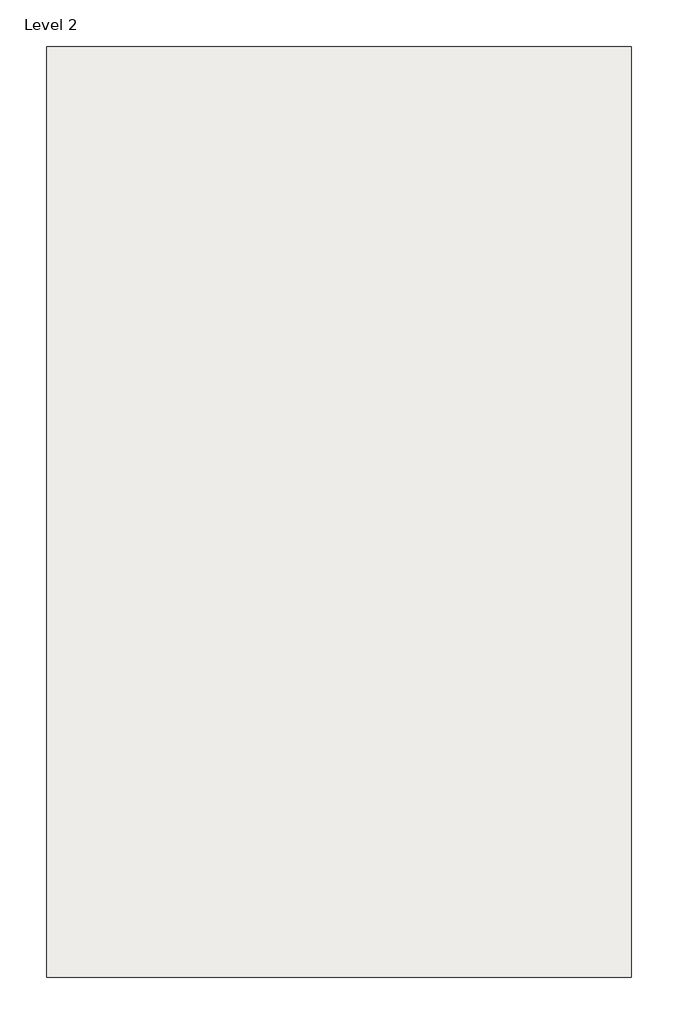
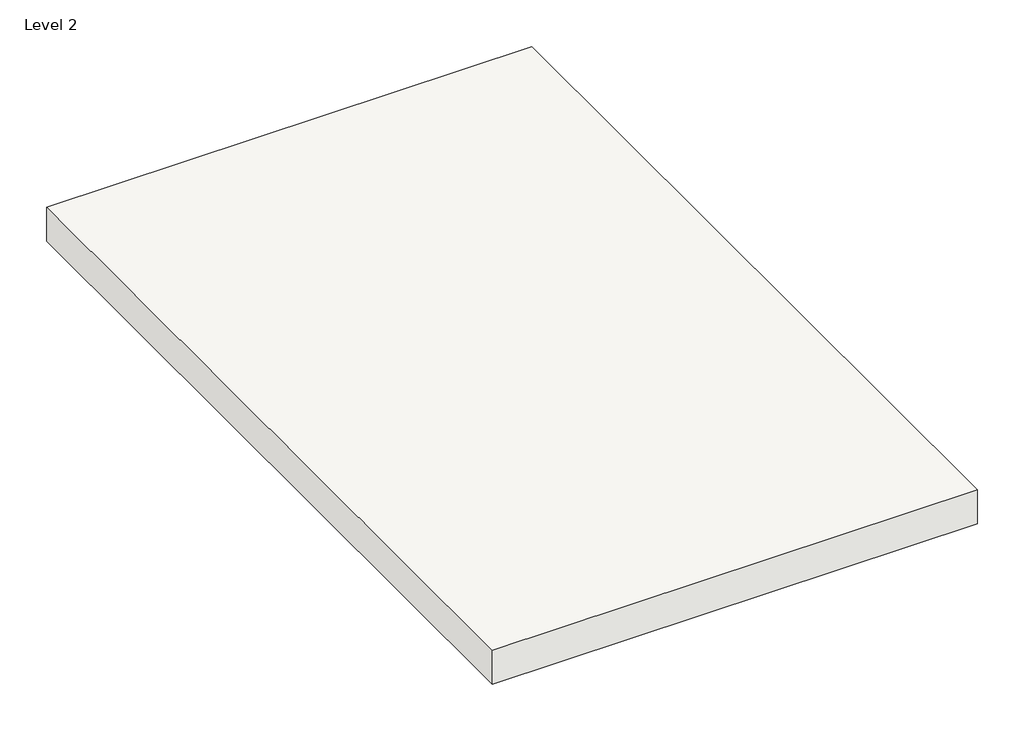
# One storey: 1 slab.
"""IFC4 building model written with IfcOpenShell, lengths in millimetres."""

from ifc_helpers import new_model, si_unit, frame, origin, place, context, project, spatial, polyline, outline, extrude, element, save

model = new_model("IFC4")

# Units and contexts
model_context = context("Model", 3, world=origin())
ifc_project = project(units=[si_unit("LENGTHUNIT", "METRE", prefix="MILLI")], contexts=[model_context])

# Site, building, storey
site = spatial("IfcSite", under=ifc_project)
building = spatial("IfcBuilding", under=site)
storey = spatial("IfcBuildingStorey", under=building, Name="Level 2", Elevation=3200.0)

# Slab
placement = place(None, origin())
element("IfcSlab", 1, ObjectType="Generic 400mm", at=placement, inside=storey, context=model_context, shape_type="SweptSolid", body=[
    extrude(outline(polyline([(601.8449565, 234.5959575), (6001.8449565, 234.5959575), (6001.8449565, -8365.4040425), (601.8449565, -8365.4040425), (601.8449565, 234.5959575)])), frame((0.0, 0.0, 2800.0), z_axis=(0.0, 0.0, 1.0), x_axis=(1.0, 0.0, 0.0)), (0.0, 0.0, 1.0), 400.0),
])

save(model, "model.ifc")
